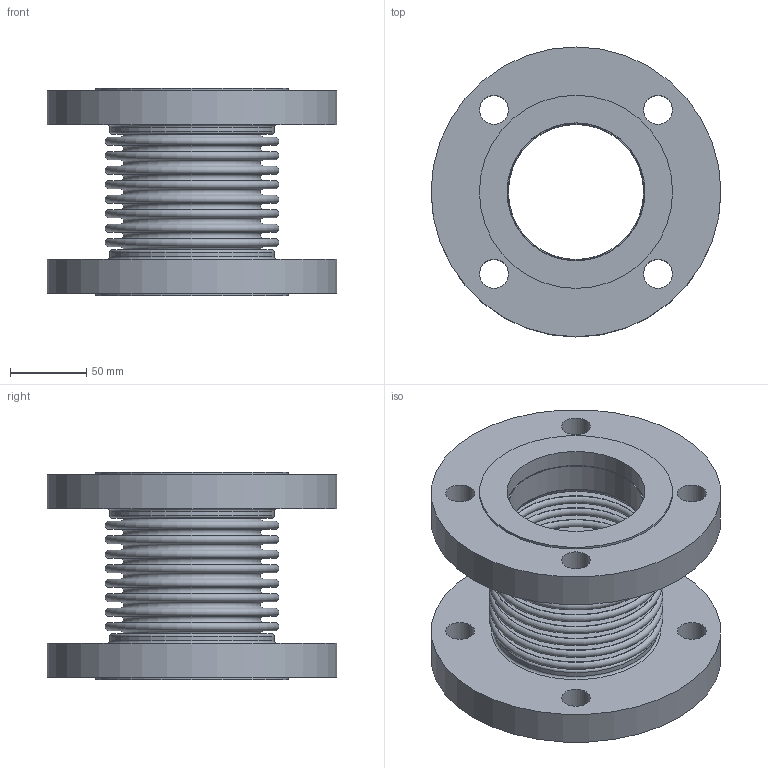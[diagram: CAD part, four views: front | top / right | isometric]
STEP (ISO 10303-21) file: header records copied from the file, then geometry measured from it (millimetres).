
FILE_DESCRIPTION(/* description */ ('EXPANSION JOINT,SINGLE, FLANGED ENDS,3 INCH NOMINAL','CAx-IF Rec.Pracs.---Representation and Presentation of Product Manufacturing Information (PMI)---4.0---2014-10-13'),/* implementation_level */ '2;1');
FILE_NAME(/* name */ 'US-03-8-150S-FLANGED ENDS.stp',/* time_stamp */ '2026-07-31T16:47:15-05:00',/* author */ ('Guadalupe'),/* organization */ (''),/* preprocessor_version */ 'ST-DEVELOPER v20.1',/* originating_system */ 'Autodesk Inventor 2026',/* authorisation */ '');
FILE_SCHEMA (('AP242_MANAGED_MODEL_BASED_3D_ENGINEERING_MIM_LF { 1 0 10303 442 2 1 4 }'));
Length unit declared in the file: inch
Products named in the file (3): 03-85S; 03-85S-02; 03-85S-01
Assembly tree (3 placements, depth 2):
  03-85S
    03-85S-02  x2
    03-85S-01
Bounding box: 190.5 x 190.5 x 136.14 mm (x, y, z)
Volume: 1038921 mm3; surface area: 316325.5 mm2
Topology: 5 solids, 5 shells, 104 faces, 174 edges, 116 vertices
Faces by surface type: plane 46, torus 38, cylinder 20
Full cylindrical faces by diameter (mm): 19.05 x8, 88.9 x2, 90.119 x2, 90.678 x2, 107.95 x2, 127 x2, 190.5 x2
Entity records: 2402 total; most frequent: DIRECTION 494, CARTESIAN_POINT 353, ORIENTED_EDGE 288, AXIS2_PLACEMENT_3D 241, EDGE_CURVE 144, EDGE_LOOP 140, CIRCLE 132, VERTEX_POINT 96
